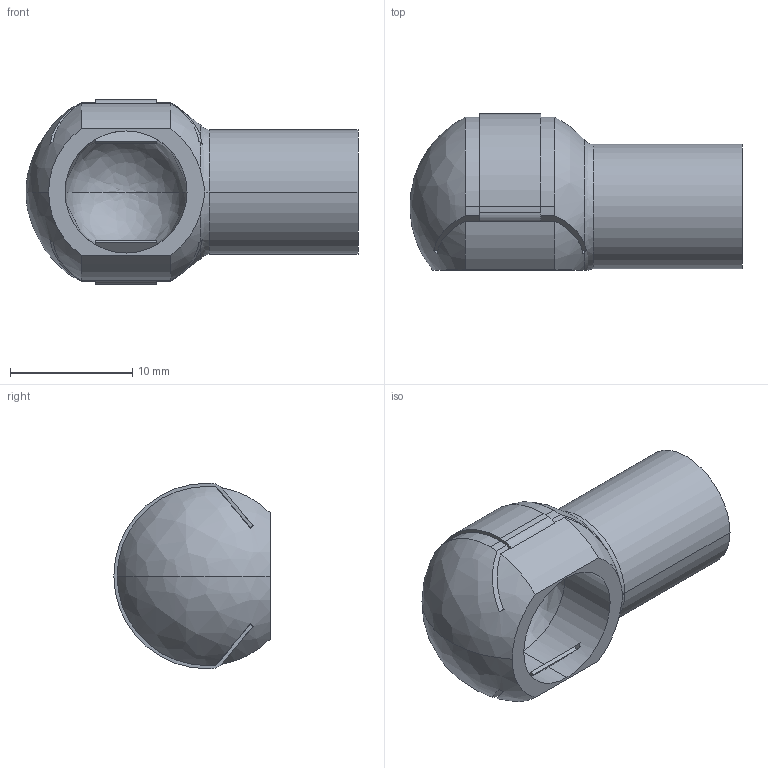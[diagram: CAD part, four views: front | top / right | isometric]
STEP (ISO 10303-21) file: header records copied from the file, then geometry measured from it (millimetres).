
FILE_DESCRIPTION (( 'STEP AP214' ), '1' );
FILE_NAME ('13.C10M6L19VB.STEP', '2017-10-27T12:18:20', ( '' ), ( '' ), 'SwSTEP 2.0', 'SolidWorks 2016', '' );
FILE_SCHEMA (( 'AUTOMOTIVE_DESIGN' ));
Length unit declared in the file: millimetre
Products named in the file (1): 13.C10M6L19VB
Bounding box: 27.2 x 12.8 x 15.2 mm (x, y, z)
Volume: 2050.4 mm3; surface area: 1764.8 mm2
Topology: 1 solids, 1 shells, 54 faces, 174 edges, 112 vertices
Faces by surface type: cylinder 21, plane 20, bspline 9, cone 4
Entity records: 2140 total; most frequent: CARTESIAN_POINT 634, ORIENTED_EDGE 340, DIRECTION 292, EDGE_CURVE 170, VERTEX_POINT 112, AXIS2_PLACEMENT_3D 110, LINE 72, VECTOR 72
